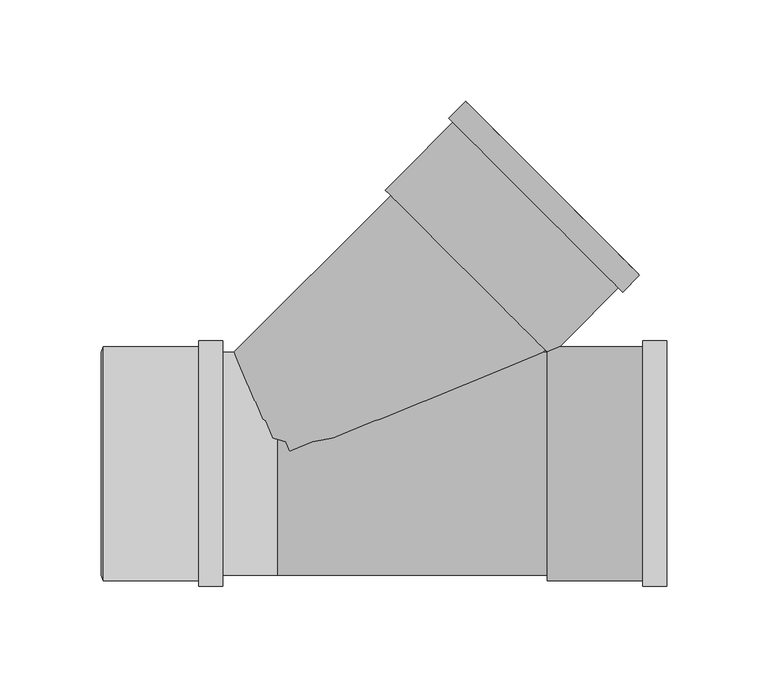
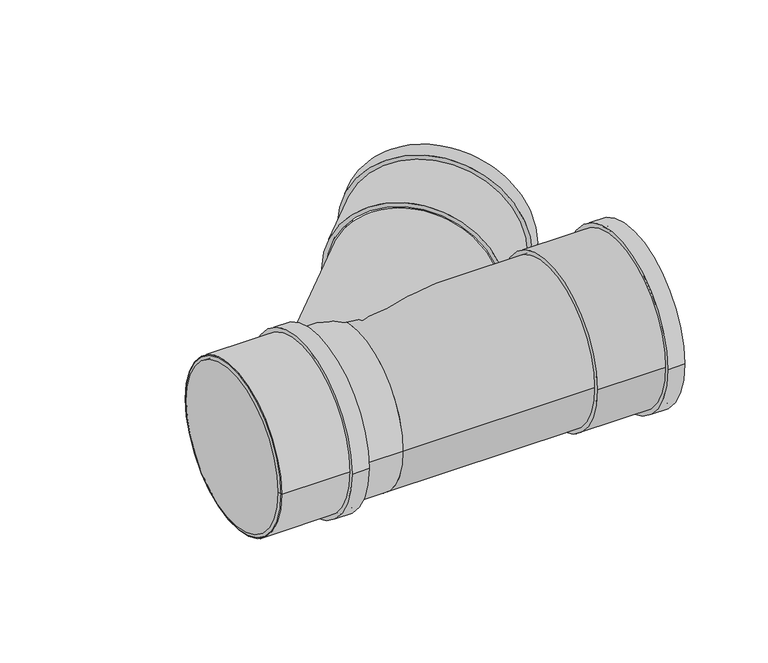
"""IFC4 building model written with IfcOpenShell, lengths in millimetres: pipe fitting geometry, Superdrain SKEA Branch : Superdrain SKEA Branch."""

import ifcopenshell
import ifcopenshell.guid

model = None  # the IFC model being written
_history = None  # IfcOwnerHistory: only IFC2X3 demands one
_inside = {}  # id of a spatial element -> (the spatial element, [elements in it])
_under = {}  # id of a project, library or spatial element -> (it, [spatial elements below it])
_declared = {}  # id of a project -> (the project, [libraries it declares])
_typed = {}  # id of a type object -> (the type object, [elements of that type])
_made_of = {}  # id of a material, layer set ... -> (it, [elements and type objects made of it])


def new_model(schema):
    """Start an empty IFC model of exactly this schema.

    Asked for "IFC4X3", IfcOpenShell would pick the latest addendum, in which some entities
    have other attributes; the version numbers below select the first issue.
    IFC2X3 requires an IfcOwnerHistory on every rooted entity: one is made here for all.
    """
    global model, _history
    if schema == "IFC4X3":
        model = ifcopenshell.file(schema_version=(4, 3, 0, 0))
    else:
        model = ifcopenshell.file(schema=schema)
    _inside.clear()
    _under.clear()
    _declared.clear()
    _typed.clear()
    _made_of.clear()
    _history = None
    if model.schema == "IFC2X3":
        org = make("IfcOrganization", Name="unknown")
        user = make(
            "IfcPersonAndOrganization",
            ThePerson=make("IfcPerson", FamilyName="unknown"),
            TheOrganization=org,
        )
        app = make(
            "IfcApplication",
            ApplicationDeveloper=org,
            Version="unknown",
            ApplicationFullName="unknown",
            ApplicationIdentifier="unknown",
        )
        _history = make(
            "IfcOwnerHistory",
            OwningUser=user,
            OwningApplication=app,
            ChangeAction="ADDED",
            CreationDate=0,
        )
    return model


def make(cls, **values):
    """One entity of the class cls with the attributes given. An attribute that is None is left unset."""
    return model.create_entity(
        cls, **{name: value for name, value in values.items() if value is not None}
    )


def rooted(cls, **values):
    """An entity with a GlobalId (a new one), such as an element, a storey or a relation."""
    return make(cls, GlobalId=ifcopenshell.guid.new(), OwnerHistory=_history, **values)


def si_unit(unit_type, name, prefix=None):
    """IfcSIUnit, for example si_unit("LENGTHUNIT", "METRE", prefix="MILLI")."""
    return make("IfcSIUnit", UnitType=unit_type, Prefix=prefix, Name=name)


def assignment(units):
    """IfcUnitAssignment: the units of a project."""
    return None if units is None else make("IfcUnitAssignment", Units=units)


def point(xyz):
    """IfcCartesianPoint."""
    return None if xyz is None else make("IfcCartesianPoint", Coordinates=xyz)


def direction(xyz):
    """IfcDirection."""
    return None if xyz is None else make("IfcDirection", DirectionRatios=xyz)


def frame(location, z_axis=None, x_axis=None):
    """IfcAxis2Placement3D, a coordinate frame: its origin and axes. An axis left out is left unset."""
    return make(
        "IfcAxis2Placement3D",
        Location=point(location),
        Axis=direction(z_axis),
        RefDirection=direction(x_axis),
    )


def frame_2d(location, x_axis=None):
    """IfcAxis2Placement2D, a coordinate frame in the plane: its origin and x axis."""
    return make(
        "IfcAxis2Placement2D", Location=point(location), RefDirection=direction(x_axis)
    )


def origin():
    """The frame at (0, 0, 0) with its axes left unset."""
    return frame((0.0, 0.0, 0.0))


def origin_2d():
    """The frame at (0, 0) in the plane with its x axis left unset."""
    return frame_2d((0.0, 0.0))


def place(relative_to, where):
    """IfcLocalPlacement: puts the frame where relative to a parent placement (None: the world)."""
    return make(
        "IfcLocalPlacement", PlacementRelTo=relative_to, RelativePlacement=where
    )


def context(
    kind, dimensions, precision=None, world=None, true_north=None, identifier=None
):
    """IfcGeometricRepresentationContext, for example the 3D "Model" context."""
    return make(
        "IfcGeometricRepresentationContext",
        ContextIdentifier=identifier,
        ContextType=kind,
        CoordinateSpaceDimension=dimensions,
        Precision=precision,
        WorldCoordinateSystem=world,
        TrueNorth=true_north,
    )


def project(units=None, contexts=None):
    """IfcProject with its units and contexts."""
    return rooted(
        "IfcProject",
        Name="project",
        RepresentationContexts=contexts,
        UnitsInContext=assignment(units),
    )


def spatial(cls, under=None, at=None, **own):
    """A site, building, storey or space (cls), placed at a placement, below another one or the project."""
    s = rooted(cls, ObjectPlacement=at, **own)
    if under is not None:
        _under.setdefault(under.id(), (under, []))[1].append(s)
    return s


def polyline(points):
    """IfcPolyline through the points."""
    return make("IfcPolyline", Points=[point(p) for p in points])


def circle_curve(where, radius):
    """IfcCircle in the frame where."""
    return make("IfcCircle", Position=where, Radius=radius)


def ellipse_curve(where, semi_axis1, semi_axis2):
    """IfcEllipse in the frame where."""
    return make(
        "IfcEllipse", Position=where, SemiAxis1=semi_axis1, SemiAxis2=semi_axis2
    )


def trimmed(basis, trim1, trim2, sense, master):
    """IfcTrimmedCurve: the piece of a basis curve between two trims."""
    return make(
        "IfcTrimmedCurve",
        BasisCurve=basis,
        Trim1=trim1,
        Trim2=trim2,
        SenseAgreement=sense,
        MasterRepresentation=master,
    )


def segment(curve, same_sense, transition):
    """IfcCompositeCurveSegment."""
    return make(
        "IfcCompositeCurveSegment",
        Transition=transition,
        SameSense=same_sense,
        ParentCurve=curve,
    )


def composite_curve(segments, self_intersect=None):
    """IfcCompositeCurve: segments joined end to end."""
    return make("IfcCompositeCurve", Segments=segments, SelfIntersect=self_intersect)


def outline(outer, holes=None, kind="AREA"):
    """IfcArbitraryClosedProfileDef: a profile drawn as a closed curve; with holes, ...WithVoids."""
    if holes is None:
        return make("IfcArbitraryClosedProfileDef", ProfileType=kind, OuterCurve=outer)
    return make(
        "IfcArbitraryProfileDefWithVoids",
        ProfileType=kind,
        OuterCurve=outer,
        InnerCurves=holes,
    )


def extrude(swept, where, along, depth):
    """IfcExtrudedAreaSolid: the profile swept, set in the frame where, extruded along a direction by depth."""
    return make(
        "IfcExtrudedAreaSolid",
        SweptArea=swept,
        Position=where,
        ExtrudedDirection=direction(along),
        Depth=depth,
    )


def shape(context_of_items, identifier, shape_type, items):
    """IfcShapeRepresentation: the items that make up one representation, for example the "Body"."""
    return make(
        "IfcShapeRepresentation",
        ContextOfItems=context_of_items,
        RepresentationIdentifier=identifier,
        RepresentationType=shape_type,
        Items=items,
    )


def source(mapping_origin, context_of_items, identifier, shape_type, items):
    """IfcRepresentationMap: a shape defined once, which mapped items show again and again."""
    return make(
        "IfcRepresentationMap",
        MappingOrigin=mapping_origin,
        MappedRepresentation=shape(context_of_items, identifier, shape_type, items),
    )


def transform(
    local_origin,
    x_axis=None,
    y_axis=None,
    z_axis=None,
    scale=None,
    scale2=None,
    scale3=None,
    uniform=True,
):
    """IfcCartesianTransformationOperator3D, or its non-uniform kind. x_axis, y_axis, z_axis: its Axis1, 2, 3."""
    if uniform:
        return make(
            "IfcCartesianTransformationOperator3D",
            Axis1=direction(x_axis),
            Axis2=direction(y_axis),
            LocalOrigin=point(local_origin),
            Scale=scale,
            Axis3=direction(z_axis),
        )
    return make(
        "IfcCartesianTransformationOperator3DnonUniform",
        Axis1=direction(x_axis),
        Axis2=direction(y_axis),
        LocalOrigin=point(local_origin),
        Scale=scale,
        Axis3=direction(z_axis),
        Scale2=scale2,
        Scale3=scale3,
    )


def mapped(mapping_source, mapping_target):
    """IfcMappedItem: shows the shape of a source again, moved by a transform."""
    return make(
        "IfcMappedItem", MappingSource=mapping_source, MappingTarget=mapping_target
    )


def made_of(thing, what):
    """Note that an element or type object is made of a material, layer set ...; save() writes the relation."""
    if what is not None:
        _made_of.setdefault(what.id(), (what, []))[1].append(thing)
    return thing


def element(
    cls,
    number,
    at=None,
    inside=None,
    cuts=None,
    type_object=None,
    material=None,
    context=None,
    identifier="Body",
    shape_type=None,
    held_by="IfcProductDefinitionShape",
    body=None,
    shapes=None,
    **own,
):
    """One element of the class cls, such as IfcWall. Its Tag is "e" and its number.

    at: its placement. inside: the storey or other place that contains it. cuts: it is an
    opening in that element (IfcRelVoidsElement). A single representation is given by context,
    identifier, shape_type and body (its items); several are given by shapes. held_by: the class
    of the entity that holds the representations. save() writes the other relations.
    """
    e = rooted(cls, Tag="e%d" % number, ObjectPlacement=at, **own)
    if body is not None:
        shapes = [shape(context, identifier, shape_type, body)]
    if shapes is not None:
        e.Representation = make(held_by, Representations=shapes)
    if inside is not None:
        _inside.setdefault(inside.id(), (inside, []))[1].append(e)
    if cuts is not None:
        rooted(
            "IfcRelVoidsElement", RelatingBuildingElement=cuts, RelatedOpeningElement=e
        )
    if type_object is not None:
        _typed.setdefault(type_object.id(), (type_object, []))[1].append(e)
    return made_of(e, material)


def aggregate(whole, parts):
    """IfcRelAggregates: a whole, such as a stair, and the parts it consists of."""
    return rooted("IfcRelAggregates", RelatingObject=whole, RelatedObjects=parts)


def save(model, path):
    """Write the relations noted so far, then the file.

    IfcRelAggregates (storeys below a building ...), IfcRelContainedInSpatialStructure (elements
    in a storey), IfcRelDefinesByType, IfcRelAssociatesMaterial and IfcRelDeclares: one each for
    every whole, place, type object, material and project.
    """
    for whole, parts in _under.values():
        aggregate(whole, parts)
    for where, things in _inside.values():
        rooted(
            "IfcRelContainedInSpatialStructure",
            RelatedElements=things,
            RelatingStructure=where,
        )
    for kind, things in _typed.values():
        rooted("IfcRelDefinesByType", RelatedObjects=things, RelatingType=kind)
    for what, things in _made_of.values():
        rooted("IfcRelAssociatesMaterial", RelatedObjects=things, RelatingMaterial=what)
    for by, libraries in _declared.values():
        rooted("IfcRelDeclares", RelatingContext=by, RelatedDefinitions=libraries)
    model.write(path)


def plane_surface(at):
    """IfcPlane: the flat surface through the origin of the frame at, square to its z axis."""
    return make("IfcPlane", Position=at)


def cylinder_surface(at, radius):
    """IfcCylindricalSurface: all points at the distance radius from the z axis of the frame at."""
    return make("IfcCylindricalSurface", Position=at, Radius=radius)


def revolved_surface(curve, axis_point, axis_direction):
    """IfcSurfaceOfRevolution: the curve turned about the line through axis_point along axis_direction."""
    return make(
        "IfcSurfaceOfRevolution",
        SweptCurve=make("IfcArbitraryOpenProfileDef", ProfileType="CURVE", Curve=curve),
        AxisPosition=make("IfcAxis1Placement", Location=point(axis_point), Axis=direction(axis_direction)),
    )


def advanced_brep(points, edges, surfaces, faces):
    """IfcAdvancedBrep: a solid bounded by faces that lie on surfaces and meet in shared edges.

    An edge is (start, end): straight between two places in points (the first is 0);
    or (start, end, curve); or (start, end, curve, False) where it runs against its curve.
    A face is (place in surfaces, loops), or (place, loops, False) where it looks against
    its surface's normal. A loop lists edges by number (the first is 1), with a minus sign
    where the edge is run from its end to its start. The first loop is the outer one.
    """
    corners = [point(p) for p in points]
    vertices = [make("IfcVertexPoint", VertexGeometry=c) for c in corners]
    made = []
    for start, end, *more in edges:
        made.append(
            make(
                "IfcEdgeCurve",
                EdgeStart=vertices[start],
                EdgeEnd=vertices[end],
                EdgeGeometry=more[0] if more else make("IfcPolyline", Points=[corners[start], corners[end]]),
                SameSense=more[1] if len(more) > 1 else True,
            )
        )
    hull = []
    for where, loops, *sense in faces:
        bounds = []
        for j, loop in enumerate(loops):
            ring = [make("IfcOrientedEdge", EdgeElement=made[abs(k) - 1], Orientation=k > 0) for k in loop]
            bounds.append(
                make(
                    "IfcFaceOuterBound" if j == 0 else "IfcFaceBound",
                    Bound=make("IfcEdgeLoop", EdgeList=ring),
                    Orientation=True,
                )
            )
        hull.append(make("IfcAdvancedFace", Bounds=bounds, FaceSurface=surfaces[where], SameSense=sense[0] if sense else True))
    return make("IfcAdvancedBrep", Outer=make("IfcClosedShell", CfsFaces=hull))


def pipe_fitting_eab455b9(model_context):
    return source(origin(), model_context, "Body", "SolidModel", [
        extrude(outline(composite_curve([segment(trimmed(circle_curve(origin_2d(), 57.75), [point((57.75, 0.0))], [point((-57.75, 0.0))], False, "CARTESIAN"), True, "CONTINUOUS"), segment(trimmed(circle_curve(origin_2d(), 57.75), [point((-57.75, 0.0))], [point((57.75, 0.0))], False, "CARTESIAN"), True, "CONTINUOUS")], self_intersect=False), holes=[composite_curve([segment(trimmed(circle_curve(origin_2d(), 55.0), [point((55.0, 0.0))], [point((-55.0, 0.0))], True, "CARTESIAN"), True, "CONTINUOUS"), segment(trimmed(circle_curve(origin_2d(), 55.0), [point((-55.0, 0.0))], [point((55.0, 0.0))], True, "CARTESIAN"), True, "CONTINUOUS")], self_intersect=False)]), frame((-85.8, 0.0, 0.0), z_axis=(1.0, 0.0, 0.0), x_axis=(0.0, 1.0, 0.0)), (0.0, 0.0, 1.0), 59.0),
        extrude(outline(composite_curve([segment(trimmed(circle_curve(origin_2d(), 60.6375), [point((60.6375, 0.0))], [point((-60.6375, 0.0))], False, "CARTESIAN"), True, "CONTINUOUS"), segment(trimmed(circle_curve(origin_2d(), 60.6375), [point((-60.6375, 0.0))], [point((60.6375, 0.0))], False, "CARTESIAN"), True, "CONTINUOUS")], self_intersect=False), holes=[composite_curve([segment(trimmed(circle_curve(origin_2d(), 55.0), [point((55.0, 0.0))], [point((-55.0, 0.0))], True, "CARTESIAN"), True, "CONTINUOUS"), segment(trimmed(circle_curve(origin_2d(), 55.0), [point((-55.0, 0.0))], [point((55.0, 0.0))], True, "CARTESIAN"), True, "CONTINUOUS")], self_intersect=False)]), frame((-38.6, 0.0, 0.0), z_axis=(1.0, 0.0, 0.0), x_axis=(0.0, 1.0, 0.0)), (0.0, 0.0, 1.0), 11.8),
        advanced_brep(
        [(-86.8, 55.0, 0.0), (-86.8, -55.0, 0.0), (-85.8, 57.75, 0.0), (-85.8, -57.75, 0.0)],
        [
            (0, 1, circle_curve(frame((-86.8, 0.0, 0.0), z_axis=(-1.0, 0.0, 0.0), x_axis=(0.0, 1.0, 0.0)), 55.0)),
            (1, 0, circle_curve(frame((-86.8, 0.0, 0.0), z_axis=(-1.0, 0.0, 0.0), x_axis=(0.0, -1.0, 0.0)), 55.0)),
            (2, 3, circle_curve(frame((-85.8, 0.0, 0.0), z_axis=(1.0, 0.0, 0.0), x_axis=(0.0, -1.0, 0.0)), 57.75)),
            (3, 2, circle_curve(frame((-85.8, 0.0, 0.0), z_axis=(1.0, 0.0, 0.0), x_axis=(0.0, 1.0, 0.0)), 57.75)),
            (3, 1),
            (0, 2),
        ],
        [
            plane_surface(frame((-86.8, 0.0, 0.0), z_axis=(-1.0, 0.0, 0.0), x_axis=(0.0, 0.0, -1.0))),
            plane_surface(frame((-85.8, 0.0, 0.0), z_axis=(1.0, 0.0, 0.0), x_axis=(0.0, 0.0, -1.0))),
            revolved_surface(polyline([(-86.8, 55.0, 0.0), (-85.8, 57.75, 0.0)]), (-106.8, 0.0, 0.0), (1.0, 0.0, 0.0)),
            revolved_surface(polyline([(-86.8, -55.0, 0.0), (-85.8, -57.75, 0.0)]), (-106.8, 0.0, 0.0), (1.0, 0.0, 0.0)),
        ],
        [
            (0, [[1, 2]]),
            (1, [[3, 4]]),
            (2, [[-4, 5, -1, 6]]),
            (3, [[-3, -6, -2, -5]]),
        ],
    ),
        advanced_brep(
        [(132.2996788, 56.0735677, 0.0), (56.0735677, 132.2996788, 0.0), (-22.326111, 53.9, 0.0), (0.0, 0.0, 53.9), (130.126111, 53.9, 0.0), (0.0, 0.0, -53.9)],
        [
            (0, 1, circle_curve(frame((94.1866233, 94.1866233, 0.0), z_axis=(0.7071067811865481, 0.707106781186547, 0.0), x_axis=(-0.707106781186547, 0.7071067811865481, 0.0)), 53.9)),
            (1, 0, circle_curve(frame((94.1866233, 94.1866233, 0.0), z_axis=(0.7071067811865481, 0.707106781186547, 0.0), x_axis=(-0.707106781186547, 0.7071067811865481, 0.0)), 53.9)),
            (1, 2),
            (2, 3, ellipse_curve(frame((0.0, 0.0, 0.0), z_axis=(0.923879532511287, 0.38268343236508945, 0.0), x_axis=(0.38268343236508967, -0.923879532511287, 0.0)), 58.3409396, 53.9)),
            (3, 4, ellipse_curve(frame((0.0, 0.0, 0.0), z_axis=(-0.3826834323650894, 0.9238795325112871, 0.0), x_axis=(-0.9238795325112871, -0.38268343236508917, 0.0)), 140.8474876, 53.9)),
            (4, 0),
            (4, 5, ellipse_curve(frame((0.0, 0.0, 0.0), z_axis=(-0.3826834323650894, 0.9238795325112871, 0.0), x_axis=(-0.9238795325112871, -0.38268343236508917, 0.0)), 140.8474876, 53.9)),
            (5, 2, ellipse_curve(frame((0.0, 0.0, 0.0), z_axis=(0.923879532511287, 0.38268343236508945, 0.0), x_axis=(0.38268343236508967, -0.923879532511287, 0.0)), 58.3409396, 53.9)),
            (2, 4),
        ],
        [
            plane_surface(frame((94.1866233, 94.1866233, 0.0), z_axis=(0.7071067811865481, 0.707106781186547, 0.0), x_axis=(0.0, 0.0, 1.0))),
            cylinder_surface(frame((0.0, 0.0, 0.0), z_axis=(-0.7071067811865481, -0.707106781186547, 0.0), x_axis=(-0.707106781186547, 0.7071067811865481, 0.0)), 53.9),
            revolved_surface(polyline([(-130.1261109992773, 53.9, 0.0), (130.12611099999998, 53.9, 0.0)]), (-90.8, 0.0, 0.0), (-1.0, 0.0, 0.0)),
        ],
        [
            (0, [[1, 2]]),
            (1, [[-2, 3, 4, 5, 6]]),
            (1, [[-1, -6, 7, 8, -3]]),
            (2, [[9, -5, -4]]),
            (2, [[-9, -8, -7]]),
        ],
    ),
        advanced_brep(
        [(133.2, -57.75, 0.0), (133.2, 57.75, 0.0), (192.2, -57.75, 0.0), (192.2, 57.75, 0.0), (192.2, -55.0, 0.0), (192.2, 55.0, 0.0), (134.2, -55.0, 0.0), (134.2, 55.0, 0.0)],
        [
            (0, 1, circle_curve(frame((133.2, 0.0, 0.0), z_axis=(-1.0, 0.0, 0.0), x_axis=(0.0, 1.0, 0.0)), 57.75)),
            (1, 0, circle_curve(frame((133.2, 0.0, 0.0), z_axis=(-1.0, 0.0, 0.0), x_axis=(0.0, 1.0, 0.0)), 57.75)),
            (2, 3, circle_curve(frame((192.2, 0.0, 0.0), z_axis=(1.0, 0.0, 0.0), x_axis=(0.0, 1.0, 0.0)), 57.75)),
            (3, 2, circle_curve(frame((192.2, 0.0, 0.0), z_axis=(1.0, 0.0, 0.0), x_axis=(0.0, 1.0, 0.0)), 57.75)),
            (4, 5, circle_curve(frame((192.2, 0.0, 0.0), z_axis=(-1.0, 0.0, 0.0), x_axis=(0.0, 1.0, 0.0)), 55.0)),
            (5, 4, circle_curve(frame((192.2, 0.0, 0.0), z_axis=(-1.0, 0.0, 0.0), x_axis=(0.0, 1.0, 0.0)), 55.0)),
            (0, 2),
            (3, 1),
            (6, 7, circle_curve(frame((134.2, 0.0, 0.0), z_axis=(-1.0, 0.0, 0.0), x_axis=(0.0, 1.0, 0.0)), 55.0)),
            (7, 5),
            (4, 6),
            (7, 6, circle_curve(frame((134.2, 0.0, 0.0), z_axis=(-1.0, 0.0, 0.0), x_axis=(0.0, 1.0, 0.0)), 55.0)),
        ],
        [
            plane_surface(frame((133.2, 0.0, 0.0), z_axis=(-1.0, 0.0, 0.0), x_axis=(0.0, 0.0, 1.0))),
            plane_surface(frame((192.2, 0.0, 0.0), z_axis=(1.0, 0.0, 0.0), x_axis=(0.0, 0.0, 1.0))),
            cylinder_surface(frame((133.2, 0.0, 0.0), z_axis=(-1.0, 0.0, 0.0), x_axis=(0.0, 1.0, 0.0)), 57.75),
            revolved_surface(polyline([(134.2, 55.0, 0.0), (192.2, 55.0, 0.0)]), (134.2, 0.0, 0.0), (-1.0, 0.0, 0.0)),
            plane_surface(frame((134.2, 0.0, 0.0), z_axis=(1.0, 0.0, 0.0), x_axis=(0.0, 0.0, 1.0))),
        ],
        [
            (0, [[1, 2]]),
            (1, [[3, 4], [5, 6]]),
            (2, [[-1, 7, -4, 8]]),
            (2, [[-2, -8, -3, -7]]),
            (3, [[9, 10, -5, 11]]),
            (3, [[12, -11, -6, -10]]),
            (4, [[-12, -9]]),
        ],
    ),
        extrude(outline(composite_curve([segment(trimmed(circle_curve(origin_2d(), 60.6375), [point((60.6375, 0.0))], [point((-60.6375, 0.0))], False, "CARTESIAN"), True, "CONTINUOUS"), segment(trimmed(circle_curve(origin_2d(), 60.6375), [point((-60.6375, 0.0))], [point((60.6375, 0.0))], False, "CARTESIAN"), True, "CONTINUOUS")], self_intersect=False), holes=[composite_curve([segment(trimmed(circle_curve(origin_2d(), 55.0), [point((55.0, 0.0))], [point((-55.0, 0.0))], True, "CARTESIAN"), True, "CONTINUOUS"), segment(trimmed(circle_curve(origin_2d(), 55.0), [point((-55.0, 0.0))], [point((55.0, 0.0))], True, "CARTESIAN"), True, "CONTINUOUS")], self_intersect=False)]), frame((180.4, 0.0, 0.0), z_axis=(1.0, 0.0, 0.0), x_axis=(0.0, 1.0, 0.0)), (0.0, 0.0, 1.0), 11.8),
        extrude(outline(composite_curve([segment(trimmed(circle_curve(origin_2d(), 55.0), [point((55.0, 0.0))], [point((-55.0, 0.0))], False, "CARTESIAN"), True, "CONTINUOUS"), segment(trimmed(circle_curve(origin_2d(), 55.0), [point((-55.0, 0.0))], [point((55.0, 0.0))], False, "CARTESIAN"), True, "CONTINUOUS")], self_intersect=False)), frame((-85.8, 0.0, 0.0), z_axis=(1.0, 0.0, 0.0), x_axis=(0.0, 1.0, 0.0)), (0.0, 0.0, 1.0), 85.8),
        extrude(outline(composite_curve([segment(trimmed(circle_curve(origin_2d(), 55.0), [point((-55.0, 0.0))], [point((55.0, 0.0))], False, "CARTESIAN"), True, "CONTINUOUS"), segment(trimmed(circle_curve(origin_2d(), 55.0), [point((55.0, 0.0))], [point((-55.0, 0.0))], False, "CARTESIAN"), True, "CONTINUOUS")], self_intersect=False)), frame((0.0, 0.0, 0.0), z_axis=(1.0, 0.0, 0.0), x_axis=(0.0, 1.0, 0.0)), (0.0, 0.0, 1.0), 133.2),
        extrude(outline(composite_curve([segment(trimmed(circle_curve(origin_2d(), 60.6375), [point((0.0, 60.6375))], [point((0.0, -60.6375))], False, "CARTESIAN"), True, "CONTINUOUS"), segment(trimmed(circle_curve(origin_2d(), 60.6375), [point((0.0, -60.6375))], [point((0.0, 60.6375))], False, "CARTESIAN"), True, "CONTINUOUS")], self_intersect=False), holes=[composite_curve([segment(trimmed(circle_curve(origin_2d(), 55.0), [point((0.0, 55.0))], [point((0.0, -55.0))], True, "CARTESIAN"), True, "CONTINUOUS"), segment(trimmed(circle_curve(origin_2d(), 55.0), [point((0.0, -55.0))], [point((0.0, 55.0))], True, "CARTESIAN"), True, "CONTINUOUS")], self_intersect=False)]), frame((127.5620633, 127.5620633, 0.0), z_axis=(0.7071067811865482, 0.7071067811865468, 0.0), x_axis=(0.0, 0.0, 1.0)), (0.0, 0.0, 1.0), 11.8),
        extrude(outline(composite_curve([segment(trimmed(circle_curve(origin_2d(), 57.75), [point((0.0, 57.7500001))], [point((0.0, -57.7500001))], False, "CARTESIAN"), True, "CONTINUOUS"), segment(trimmed(circle_curve(origin_2d(), 57.75), [point((0.0, -57.7500001))], [point((0.0, 57.7500001))], False, "CARTESIAN"), True, "CONTINUOUS")], self_intersect=False), holes=[composite_curve([segment(trimmed(circle_curve(origin_2d(), 55.0), [point((0.0, 55.0))], [point((0.0, -55.0))], True, "CARTESIAN"), True, "CONTINUOUS"), segment(trimmed(circle_curve(origin_2d(), 55.0), [point((0.0, -55.0))], [point((0.0, 55.0))], True, "CARTESIAN"), True, "CONTINUOUS")], self_intersect=False)]), frame((94.1866233, 94.1866233, 0.0), z_axis=(0.7071067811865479, 0.7071067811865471, 0.0), x_axis=(0.0, 0.0, 1.0)), (0.0, 0.0, 1.0), 59.0),
    ])


if __name__ == "__main__":
    model = new_model("IFC4")
    model_context = context("Model", 3, world=origin())
    ifc_project = project(units=[si_unit("LENGTHUNIT", "METRE", prefix="MILLI")], contexts=[model_context])
    site = spatial("IfcSite", under=ifc_project)
    building = spatial("IfcBuilding", under=site)
    placement = place(None, origin())
    pipe_fitting_shape = pipe_fitting_eab455b9(model_context)
    element("IfcPipeFitting", 1, ObjectType="Superdrain SKEA Branch : Superdrain SKEA Branch", at=placement, inside=building, context=model_context, shape_type="MappedRepresentation", body=[
        mapped(pipe_fitting_shape, transform((0.0, 0.0, 0.0), x_axis=(1.0, 0.0, 0.0), y_axis=(0.0, 1.0, 0.0), z_axis=(0.0, 0.0, 1.0))),
    ])
    save(model, "model.ifc")
